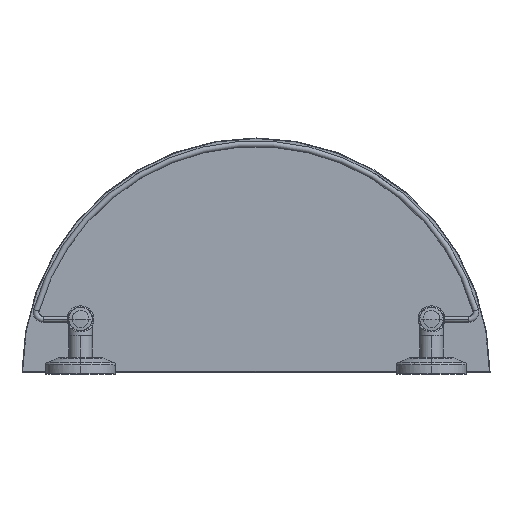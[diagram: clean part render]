
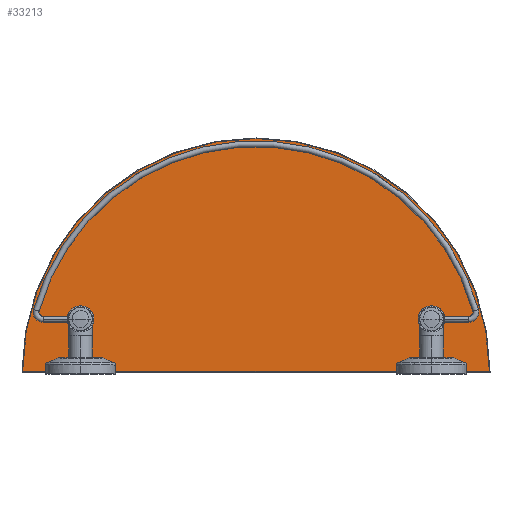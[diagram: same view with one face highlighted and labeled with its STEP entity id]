
A CAD part, top view. The second image highlights one B-rep face of the part: STEP entity #33213.
In plain terms, the highlighted planar face has unit normal (0, 0, 1).
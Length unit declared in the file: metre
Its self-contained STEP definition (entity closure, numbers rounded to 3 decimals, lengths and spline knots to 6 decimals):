
#33015=VERTEX_POINT('',#33016);
#33016=CARTESIAN_POINT('',(-0.294,0.0329,-0.0631));
#33022=EDGE_CURVE('',#33023,#33015,#33025,.T.);
#33023=VERTEX_POINT('',#33024);
#33024=CARTESIAN_POINT('',(-0.306,0.0329,-0.0631));
#33025=CIRCLE('',#33026,0.006);
#33026=AXIS2_PLACEMENT_3D('',#33027,#33028,#33029);
#33027=CARTESIAN_POINT('',(-0.3,0.0329,-0.0631));
#33028=DIRECTION('',(0.0,0.0,-1.0));
#33029=DIRECTION('',(-1.0,0.0,0.0));
#33057=VERTEX_POINT('',#33058);
#33058=CARTESIAN_POINT('',(0.006,0.0329,-0.0631));
#33064=EDGE_CURVE('',#33065,#33057,#33067,.T.);
#33065=VERTEX_POINT('',#33066);
#33066=CARTESIAN_POINT('',(-0.006,0.0329,-0.0631));
#33067=CIRCLE('',#33068,0.006);
#33068=AXIS2_PLACEMENT_3D('',#33069,#33070,#33071);
#33069=CARTESIAN_POINT('',(0.0,0.0329,-0.0631));
#33070=DIRECTION('',(0.0,0.0,-1.0));
#33071=DIRECTION('',(-1.0,0.0,0.0));
#33131=CARTESIAN_POINT('',(0.006,0.0329,-0.0631));
#33132=EDGE_CURVE('',#33057,#33065,#33133,.T.);
#33133=(B_SPLINE_CURVE(3,(#33131,#33134,#33135,#33136),.UNSPECIFIED.,.F.,
  .U.)B_SPLINE_CURVE_WITH_KNOTS((4,4),(0.0,1.0),.UNSPECIFIED.)BOUNDED_CURVE(
  )CURVE()GEOMETRIC_REPRESENTATION_ITEM()RATIONAL_B_SPLINE_CURVE((1.0,
  0.333,0.333,1.0))REPRESENTATION_ITEM(''));
#33134=CARTESIAN_POINT('',(0.006,0.0209,-0.0631));
#33135=CARTESIAN_POINT('',(-0.006,0.0209,-0.0631));
#33136=CARTESIAN_POINT('',(-0.006,0.0329,-0.0631));
#33150=CARTESIAN_POINT('',(-0.294,0.0329,-0.0631));
#33151=EDGE_CURVE('',#33015,#33023,#33152,.T.);
#33152=(B_SPLINE_CURVE(3,(#33150,#33153,#33154,#33155),.UNSPECIFIED.,.F.,
  .U.)B_SPLINE_CURVE_WITH_KNOTS((4,4),(0.0,1.0),.UNSPECIFIED.)BOUNDED_CURVE(
  )CURVE()GEOMETRIC_REPRESENTATION_ITEM()RATIONAL_B_SPLINE_CURVE((1.0,
  0.333,0.333,1.0))REPRESENTATION_ITEM(''));
#33153=CARTESIAN_POINT('',(-0.294,0.0209,-0.0631));
#33154=CARTESIAN_POINT('',(-0.306,0.0209,-0.0631));
#33155=CARTESIAN_POINT('',(-0.306,0.0329,-0.0631));
#33213=ADVANCED_FACE('',(#33219,#33238,#33242),#33214,.F.);
#33214=PLANE('',#33215);
#33215=AXIS2_PLACEMENT_3D('',#33216,#33217,#33218);
#33216=CARTESIAN_POINT('',(-0.15,-0.0121,-0.0631));
#33217=DIRECTION('',(0.0,0.0,-1.0));
#33218=DIRECTION('',(0.0,-1.0,0.0));
#33219=FACE_OUTER_BOUND('',#33220,.T.);
#33220=EDGE_LOOP('',(#33221,#33232));
#33221=ORIENTED_EDGE('',*,*,#33222,.T.);
#33222=EDGE_CURVE('',#33223,#33225,#33227,.F.);
#33223=VERTEX_POINT('',#33224);
#33224=CARTESIAN_POINT('',(0.049499,-0.0116,-0.0631));
#33225=VERTEX_POINT('',#33226);
#33226=CARTESIAN_POINT('',(-0.349499,-0.0116,-0.0631));
#33227=CIRCLE('',#33228,0.1995);
#33228=AXIS2_PLACEMENT_3D('',#33229,#33230,#33231);
#33229=CARTESIAN_POINT('',(-0.15,-0.0121,-0.0631));
#33230=DIRECTION('',(0.0,0.0,-1.0));
#33231=DIRECTION('',(-1.0,0.0,0.0));
#33232=ORIENTED_EDGE('',*,*,#33233,.T.);
#33233=EDGE_CURVE('',#33225,#33223,#33234,.T.);
#33234=LINE('',#33235,#33236);
#33235=CARTESIAN_POINT('',(-0.15,-0.0116,-0.0631));
#33236=VECTOR('',#33237,1.0);
#33237=DIRECTION('',(1.0,0.0,0.0));
#33238=FACE_BOUND('',#33239,.T.);
#33239=EDGE_LOOP('',(#33240,#33241));
#33240=ORIENTED_EDGE('',*,*,#33022,.T.);
#33241=ORIENTED_EDGE('',*,*,#33151,.T.);
#33242=FACE_BOUND('',#33243,.T.);
#33243=EDGE_LOOP('',(#33244,#33245));
#33244=ORIENTED_EDGE('',*,*,#33064,.T.);
#33245=ORIENTED_EDGE('',*,*,#33132,.T.);
